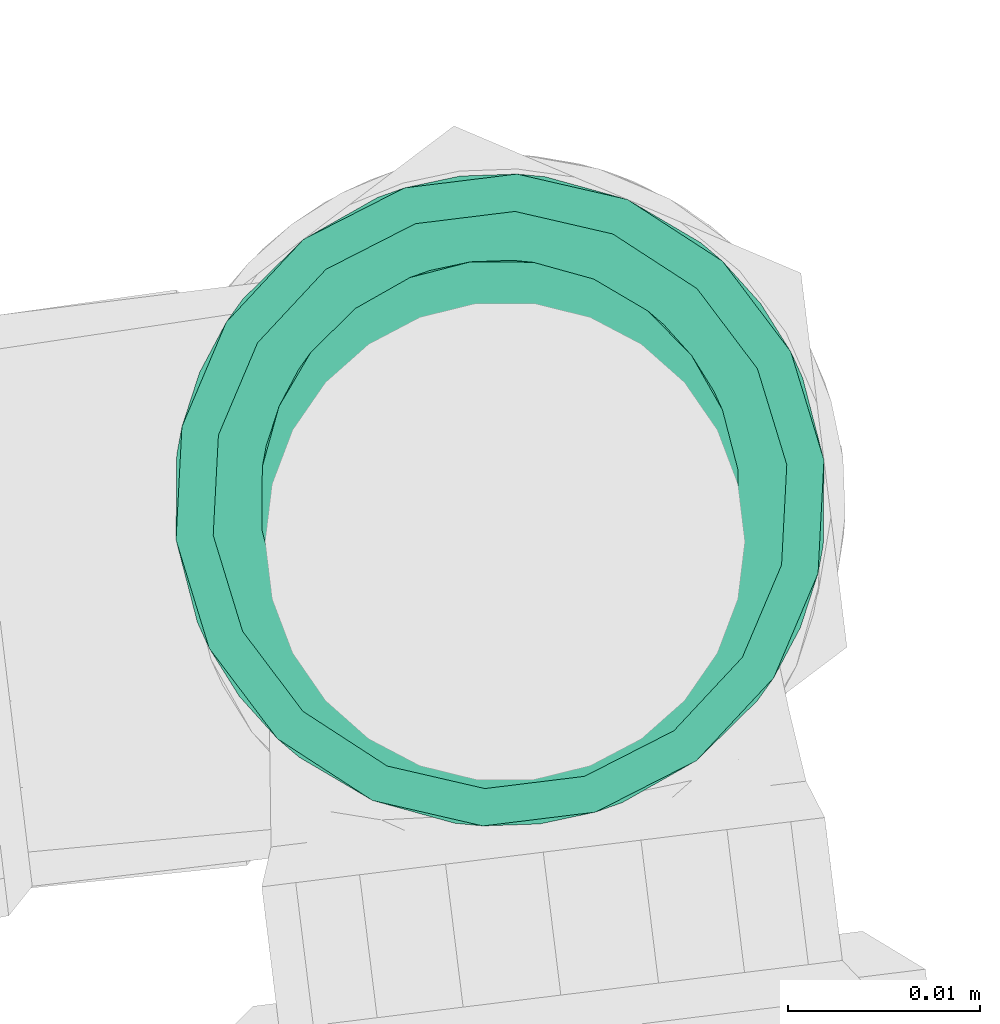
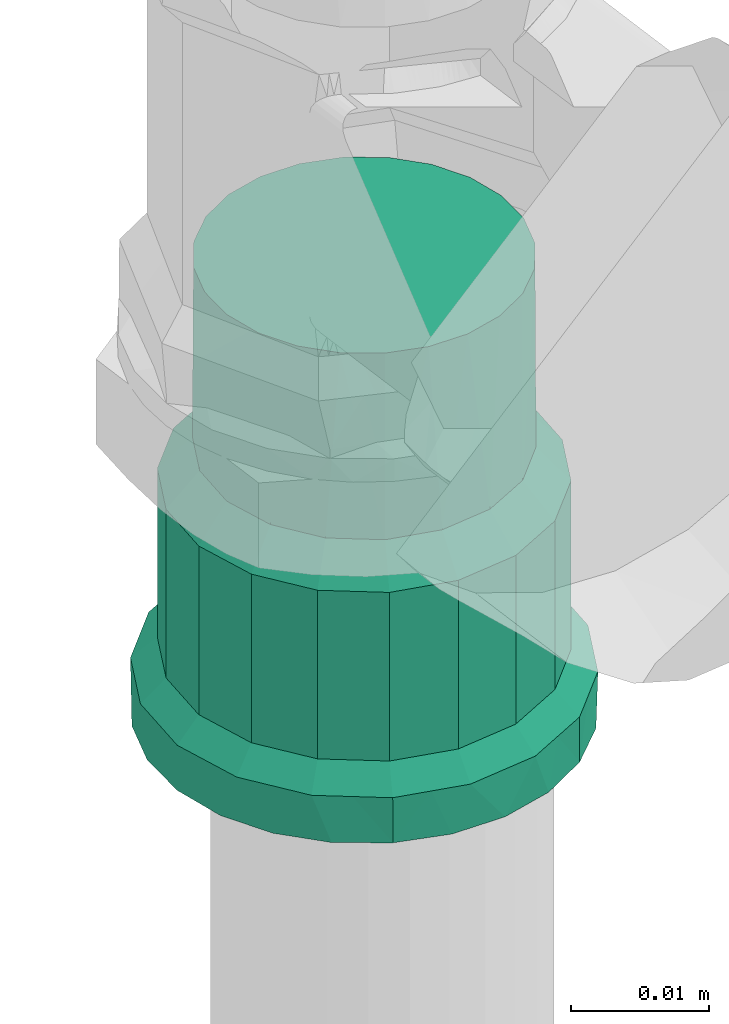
# One storey, part 76 of 97: 1 flow fitting.
"""IFC2X3 building model written with IfcOpenShell, lengths in centimetres."""

from ifc_helpers import new_model, entity, si_unit, converted_unit, derived_unit, direction, frame, origin, place, context, subcontext, project, spatial, faceted_brep, source, transform, mapped, material, type_object, type_shapes, element, save


model = new_model("IFC2X3")

# Units and contexts
model_context = context("Model", 3, precision=0.001, world=origin(), true_north=direction((6.12303176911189e-17, 1.0)))
body_context = subcontext(model_context, "Body", "Model", "MODEL_VIEW")
ifc_project = project(units=[si_unit("LENGTHUNIT", "METRE", prefix="CENTI"), si_unit("AREAUNIT", "SQUARE_METRE"), si_unit("VOLUMEUNIT", "CUBIC_METRE"), converted_unit("PLANEANGLEUNIT", "DEGREE", entity("IfcRatioMeasure", 0.0174532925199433), si_unit("PLANEANGLEUNIT", "RADIAN"), dimensions=[0, 0, 0, 0, 0, 0, 0]), si_unit("MASSUNIT", "GRAM", prefix="KILO"), derived_unit("MASSDENSITYUNIT", [(si_unit("MASSUNIT", "GRAM", prefix="KILO"), 1), (si_unit("LENGTHUNIT", "METRE"), -3)]), derived_unit("MOMENTOFINERTIAUNIT", [(si_unit("LENGTHUNIT", "METRE"), 4)]), si_unit("TIMEUNIT", "SECOND"), si_unit("FREQUENCYUNIT", "HERTZ"), si_unit("THERMODYNAMICTEMPERATUREUNIT", "DEGREE_CELSIUS"), derived_unit("THERMALTRANSMITTANCEUNIT", [(si_unit("MASSUNIT", "GRAM", prefix="KILO"), 1), (si_unit("THERMODYNAMICTEMPERATUREUNIT", "KELVIN"), -1), (si_unit("TIMEUNIT", "SECOND"), -3)]), derived_unit("VOLUMETRICFLOWRATEUNIT", [(si_unit("LENGTHUNIT", "METRE"), 3), (si_unit("TIMEUNIT", "SECOND"), -1)]), si_unit("ELECTRICCURRENTUNIT", "AMPERE"), si_unit("ELECTRICVOLTAGEUNIT", "VOLT"), si_unit("POWERUNIT", "WATT"), si_unit("FORCEUNIT", "NEWTON", prefix="KILO"), si_unit("ILLUMINANCEUNIT", "LUX"), si_unit("LUMINOUSFLUXUNIT", "LUMEN"), si_unit("LUMINOUSINTENSITYUNIT", "CANDELA"), derived_unit("USERDEFINED", [(si_unit("MASSUNIT", "GRAM", prefix="KILO"), -1), (si_unit("LENGTHUNIT", "METRE"), -2), (si_unit("TIMEUNIT", "SECOND"), 3), (si_unit("LUMINOUSFLUXUNIT", "LUMEN"), 1)]), derived_unit("LINEARVELOCITYUNIT", [(si_unit("LENGTHUNIT", "METRE"), 1), (si_unit("TIMEUNIT", "SECOND"), -1)]), si_unit("PRESSUREUNIT", "PASCAL"), derived_unit("USERDEFINED", [(si_unit("LENGTHUNIT", "METRE"), -2), (si_unit("MASSUNIT", "GRAM", prefix="KILO"), 1), (si_unit("TIMEUNIT", "SECOND"), -2)]), derived_unit("LINEARFORCEUNIT", [(si_unit("MASSUNIT", "GRAM", prefix="KILO"), 1), (si_unit("LENGTHUNIT", "METRE"), 1), (si_unit("TIMEUNIT", "SECOND"), -2), (si_unit("LENGTHUNIT", "METRE"), -1)]), derived_unit("PLANARFORCEUNIT", [(si_unit("MASSUNIT", "GRAM", prefix="KILO"), 1), (si_unit("LENGTHUNIT", "METRE"), 1), (si_unit("TIMEUNIT", "SECOND"), -2), (si_unit("LENGTHUNIT", "METRE"), -2)])], contexts=[model_context])

# Site, building, storey
site_placement = place(None, origin())
site = spatial("IfcSite", under=ifc_project, at=site_placement, Name="Default", CompositionType="ELEMENT")
building_placement = place(site_placement, origin())
building = spatial("IfcBuilding", under=site, at=building_placement, Name="HIDROSSANITÁRIO", CompositionType="ELEMENT")
storey_placement = place(building_placement, frame((0.0, 0.0, -260.0)))
storey = spatial("IfcBuildingStorey", under=building, at=storey_placement, Name="TÉRREO-HID", CompositionType="ELEMENT", Elevation=-260.0)

# Flow fitting
ifc_material = material(Name="PVC Marrom")
pipe_fitting_type = type_object("IfcPipeFittingType", Name="PVC Marrom Soldável_Adaptador Curto com Bolsa e Rosca Aninhado:Adaptador", PredefinedType="NOTDEFINED", material=ifc_material)
shared_shape = source(origin(), body_context, "Body", "Brep", [
    faceted_brep([(0.0, 0.624999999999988, -1.08253175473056), (0.0, 1.20208152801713, -1.20208152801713), (0.0, 0.850000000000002, -1.47224318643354), (0.0, 0.883883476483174, -0.883883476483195), (0.0, 0.323523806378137, -1.20740728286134), (0.0, 1.47224318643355, -0.849999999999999), (0.0, 1.08253175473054, -0.625000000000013), (0.0, 1.20740728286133, -0.323523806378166), (0.0, 1.64207390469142, -0.439992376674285), (0.0, 1.25, 0.0), (0.0, 1.7, 0.0), (0.0, 1.20740728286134, 0.323523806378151), (0.0, 1.64207390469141, 0.439992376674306), (0.0, 1.08253175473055, 0.625), (0.0, 1.47224318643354, 0.850000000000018), (0.0, 0.883883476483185, 0.883883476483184), (0.0, 1.20208152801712, 1.20208152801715), (0.0, 0.625000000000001, 1.08253175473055), (0.0, 0.849999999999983, 1.47224318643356), (0.0, 0.323523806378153, 1.20740728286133), (0.0, 0.439992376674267, 1.64207390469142), (0.0, 0.0, 1.25), (0.0, 0.0, 1.7), (0.0, -0.323523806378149, 1.20740728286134), (0.0, -0.439992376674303, 1.64207390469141), (0.0, -0.624999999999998, 1.08253175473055), (0.0, -0.850000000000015, 1.47224318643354), (0.0, -0.883883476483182, 0.883883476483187), (0.0, -1.20208152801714, 1.20208152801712), (0.0, -1.08253175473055, 0.625000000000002), (0.0, -1.47224318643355, 0.849999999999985), (0.0, -1.64207390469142, 0.439992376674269), (0.0, -1.20740728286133, 0.323523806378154), (0.0, -1.7, 0.0), (0.0, -1.25, 0.0), (0.0, -1.64207390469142, -0.43999237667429), (0.0, -1.20740728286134, -0.323523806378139), (0.0, -1.47224318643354, -0.850000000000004), (0.0, -1.08253175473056, -0.624999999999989), (0.0, -1.20208152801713, -1.20208152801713), (0.0, -0.883883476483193, -0.883883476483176), (0.0, -0.849999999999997, -1.47224318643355), (0.0, -0.625000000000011, -1.08253175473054), (0.0, -0.439992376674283, -1.64207390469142), (0.0, -0.323523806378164, -1.20740728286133), (0.0, 0.0, -1.7), (0.0, 0.0, -1.25), (0.0, 0.439992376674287, -1.64207390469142), (0.399999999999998, -1.64873062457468, 0.290739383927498), (0.399999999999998, -1.59746124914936, 0.581478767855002), (0.399999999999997, -1.30221463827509, 1.09281152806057), (0.399999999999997, -1.07604576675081, 1.28256289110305), (0.399999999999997, -1.44983794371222, 0.837145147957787), (0.399999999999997, -0.295015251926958, 1.67420608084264), (0.399999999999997, -0.57244607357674, 1.57326016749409), (0.399999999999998, -1.7, 0.0), (0.399999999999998, -1.659968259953, 0.227012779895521), (0.399999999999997, -0.849876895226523, 1.47231425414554), (0.399999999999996, 0.572840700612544, 1.57311652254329), (0.399999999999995, 0.850246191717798, 1.47210102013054), (0.399999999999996, 0.295435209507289, 1.67413202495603), (0.399999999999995, 1.07636745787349, 1.28229292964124), (0.399999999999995, 1.30248872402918, 1.09248483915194), (0.399999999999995, 1.5976070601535, 0.581078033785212), (0.399999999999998, 1.7, 0.0), (0.399999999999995, 1.45004789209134, 0.836781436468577), (0.399999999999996, 0.000209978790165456, 1.67416905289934), (0.400000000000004, 1.59760706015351, -0.581078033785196), (0.400000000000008, 1.30248872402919, -1.09248483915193), (0.400000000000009, 1.0763674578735, -1.28229292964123), (0.400000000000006, 1.45004789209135, -0.836781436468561), (0.400000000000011, 0.295435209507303, -1.67413202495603), (0.40000000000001, 0.572840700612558, -1.57311652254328), (0.40000000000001, 0.850246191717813, -1.47210102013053), (0.4, -1.64873062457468, -0.290739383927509), (0.400000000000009, -0.572446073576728, -1.57326016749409), (0.400000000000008, -0.849876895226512, -1.47231425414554), (0.40000000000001, -0.295015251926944, -1.67420608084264), (0.400000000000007, -1.0760457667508, -1.28256289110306), (0.400000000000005, -1.30221463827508, -1.09281152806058), (0.400000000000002, -1.59746124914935, -0.581478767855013), (0.400000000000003, -1.44983794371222, -0.837145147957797), (0.40000000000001, 0.000209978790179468, -1.67416905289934), (0.399999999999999, -1.65996825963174, -0.227012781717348), (2.085, -1.41422304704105, 0.514779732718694), (0.590000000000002, -1.41422304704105, 0.514779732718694), (0.590000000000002, -1.45961152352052, 0.257389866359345), (0.590000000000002, -1.505, 0.0), (2.085, -1.505, 0.0), (2.085, -1.45961152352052, 0.257389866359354), (2.085, -1.45359735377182, 0.291495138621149), (2.08499999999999, -0.752391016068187, 1.30343114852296), (0.590000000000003, -0.752391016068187, 1.30343114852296), (0.590000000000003, -0.952616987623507, 1.13544538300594), (0.590000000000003, -1.15284295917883, 0.967459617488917), (2.08499999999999, -1.15284295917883, 0.967459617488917), (2.08499999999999, -0.952616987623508, 1.13544538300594), (0.590000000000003, -1.28353300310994, 0.741119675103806), (2.085, -1.28353300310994, 0.741119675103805), (0.590000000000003, -0.506783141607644, 1.39279797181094), (2.08499999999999, -0.506783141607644, 1.39279797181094), (2.08499999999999, -0.261175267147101, 1.48216479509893), (0.590000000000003, -0.261175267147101, 1.48216479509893), (0.590000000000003, 0.000185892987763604, 1.48213201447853), (2.08499999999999, 0.000185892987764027, 1.48213201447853), (2.08499999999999, 0.261547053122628, 1.48209923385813), (0.590000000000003, 0.261547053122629, 1.48209923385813), (2.08499999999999, 0.75271795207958, 1.3032423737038), (0.590000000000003, 0.752717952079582, 1.3032423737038), (0.590000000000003, 0.507132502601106, 1.39267080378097), (2.08499999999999, 0.507132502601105, 1.39267080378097), (2.08499999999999, 1.15308560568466, 0.967170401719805), (0.590000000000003, 1.15308560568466, 0.967170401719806), (0.590000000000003, 0.952901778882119, 1.1352063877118), (2.08499999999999, 0.952901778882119, 1.1352063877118), (2.085, 1.4143521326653, 0.514424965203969), (0.590000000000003, 1.4143521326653, 0.514424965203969), (0.590000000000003, 1.28371886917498, 0.740797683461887), (2.085, 1.28371886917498, 0.740797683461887), (2.085, 1.505, 0.0), (0.590000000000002, 1.505, 0.0), (2.08500000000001, 1.41435213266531, -0.514424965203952), (0.590000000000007, 1.41435213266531, -0.514424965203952), (0.590000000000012, 0.752717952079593, -1.3032423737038), (0.590000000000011, 0.95290177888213, -1.13520638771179), (0.59000000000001, 1.15308560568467, -0.967170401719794), (2.08500000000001, 1.15308560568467, -0.967170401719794), (2.08500000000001, 0.95290177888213, -1.13520638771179), (2.08500000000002, 0.752717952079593, -1.3032423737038), (2.08500000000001, -1.41422304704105, -0.514779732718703), (0.590000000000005, -1.41422304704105, -0.514779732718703), (0.590000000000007, -1.28353300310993, -0.741119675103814), (0.590000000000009, -1.15284295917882, -0.967459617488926), (2.08500000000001, -1.15284295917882, -0.967459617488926), (2.08500000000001, -1.28353300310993, -0.741119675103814), (2.08500000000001, -0.752391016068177, -1.30343114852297), (0.590000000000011, -0.752391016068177, -1.30343114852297), (0.590000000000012, -0.506783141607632, -1.39279797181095), (0.590000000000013, -0.261175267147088, -1.48216479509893), (2.08500000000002, -0.261175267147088, -1.48216479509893), (2.08500000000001, -0.506783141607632, -1.39279797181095), (0.590000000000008, 1.28371886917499, -0.740797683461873), (2.08500000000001, 1.28371886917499, -0.740797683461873), (0.590000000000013, 0.507132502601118, -1.39267080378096), (2.08500000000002, 0.507132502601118, -1.39267080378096), (2.08500000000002, 0.261547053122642, -1.48209923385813), (0.590000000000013, 0.261547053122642, -1.48209923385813), (2.085, -1.45359734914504, -0.291495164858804), (2.085, -1.46677519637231, -0.216765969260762), (0.590000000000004, -1.45961152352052, -0.257389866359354), (0.59000000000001, -0.952616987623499, -1.13544538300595), (2.08500000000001, -0.952616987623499, -1.13544538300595), (0.590000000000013, 0.000185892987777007, -1.48213201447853), (2.08500000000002, 0.000185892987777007, -1.48213201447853), (4.03, 0.323523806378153, -1.20740728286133), (4.03, 0.625000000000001, -1.08253175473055), (4.03, 0.883883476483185, -0.883883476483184), (4.03, 1.08253175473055, -0.624999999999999), (4.03, 1.20740728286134, -0.323523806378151), (4.03, 1.25, 0.0), (4.03, 1.20740728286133, 0.323523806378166), (4.03, 1.08253175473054, 0.625000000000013), (4.03, 0.883883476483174, 0.883883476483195), (4.03, 0.624999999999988, 1.08253175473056), (4.03, 0.323523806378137, 1.20740728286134), (4.03, 0.0, 1.25), (4.03, -0.323523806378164, 1.20740728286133), (4.03, -0.625000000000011, 1.08253175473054), (4.03, -0.883883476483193, 0.883883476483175), (4.03, -1.08253175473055, 0.624999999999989), (4.03, -1.20740728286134, 0.323523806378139), (4.03, -1.25, 0.0), (4.03, -1.20740728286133, -0.323523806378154), (4.03, -1.08253175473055, -0.625000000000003), (4.03, -0.883883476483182, -0.883883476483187), (4.03, -0.624999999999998, -1.08253175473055), (4.03, -0.323523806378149, -1.20740728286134), (4.03, 0.0, -1.25), (2.375, -1.25, 0.0), (2.37499999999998, -0.957510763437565, 0.803537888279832), (2.37499999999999, -1.17460385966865, 0.427557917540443), (2.37499999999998, -0.624909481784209, 1.08258401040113), (2.37499999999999, -1.06605731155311, 0.615547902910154), (2.375, -1.21825182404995, 0.180038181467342), (2.37499999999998, -0.216922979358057, 1.23103388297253), (2.37499999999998, -0.420916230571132, 1.15680894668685), (2.37499999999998, -0.791210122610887, 0.943060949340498), (2.37499999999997, 0.217231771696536, 1.23097943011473), (2.37499999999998, 0.625181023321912, 1.08242722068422), (2.37499999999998, 0.957712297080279, 0.803297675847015), (2.37499999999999, 1.17471107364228, 0.427263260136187), (2.37499999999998, 0.791446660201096, 0.94286244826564), (2.37499999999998, 0.421206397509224, 1.1567033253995), (2.375, 1.25, 0.0), (2.37499999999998, 1.06621168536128, 0.615280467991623), (2.37499999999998, 0.000154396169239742, 1.23100665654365), (2.37500000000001, 0.957712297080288, -0.803297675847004), (2.375, 1.17471107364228, -0.427263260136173), (2.37500000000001, 0.625181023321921, -1.08242722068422), (2.37500000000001, 1.06621168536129, -0.615280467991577), (2.37500000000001, 0.217231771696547, -1.23097943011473), (2.37500000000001, 0.421206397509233, -1.15670332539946), (2.37500000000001, 0.791446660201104, -0.942862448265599), (2.37500000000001, -0.216922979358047, -1.23103388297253), (2.37500000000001, -0.6249094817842, -1.08258401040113), (2.375, -0.957510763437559, -0.803537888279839), (2.375, -1.17460385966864, -0.427557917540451), (2.37500000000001, -0.79121012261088, -0.943060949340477), (2.37500000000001, -0.420916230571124, -1.15680894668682), (2.375, -1.21230192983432, -0.213778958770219), (2.375, -1.0660573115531, -0.615547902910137), (2.37500000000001, 0.00015439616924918, -1.23100665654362), (0.590000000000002, -1.25, 0.0), (2.085, -1.25, 0.0), (2.085, -1.20740728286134, -0.323523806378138), (0.590000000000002, -1.20740728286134, -0.323523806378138), (0.399999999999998, -1.20740728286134, -0.323523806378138), (0.399999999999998, -1.25, 0.0), (2.085, -1.08253175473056, -0.624999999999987), (0.590000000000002, -1.08253175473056, -0.624999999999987), (0.399999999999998, -1.08253175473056, -0.624999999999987), (0.590000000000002, -0.625000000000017, -1.08253175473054), (0.399999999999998, -0.625000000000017, -1.08253175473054), (0.399999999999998, -0.883883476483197, -0.883883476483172), (0.590000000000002, -0.883883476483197, -0.883883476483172), (2.085, -0.883883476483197, -0.883883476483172), (2.085, -0.625000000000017, -1.08253175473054), (0.590000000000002, -0.32352380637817, -1.20740728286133), (0.399999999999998, -0.32352380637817, -1.20740728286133), (2.085, -0.32352380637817, -1.20740728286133), (2.085, 0.0, -1.25), (0.590000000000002, 0.0, -1.25), (0.399999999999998, 0.0, -1.25), (2.085, 0.323523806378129, -1.20740728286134), (0.590000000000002, 0.323523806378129, -1.20740728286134), (0.399999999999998, 0.323523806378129, -1.20740728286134), (2.085, 0.624999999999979, -1.08253175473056), (0.590000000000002, 0.624999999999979, -1.08253175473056), (0.399999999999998, 0.624999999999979, -1.08253175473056), (0.590000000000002, 1.08253175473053, -0.625000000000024), (0.399999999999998, 1.08253175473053, -0.625000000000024), (0.399999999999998, 0.883883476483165, -0.883883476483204), (0.590000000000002, 0.883883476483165, -0.883883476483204), (2.085, 0.883883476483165, -0.883883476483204), (2.085, 1.08253175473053, -0.625000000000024), (0.590000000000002, 1.20740728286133, -0.323523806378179), (0.399999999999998, 1.20740728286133, -0.323523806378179), (2.085, 1.20740728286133, -0.323523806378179), (2.085, 1.25, 0.0), (0.590000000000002, 1.25, 0.0), (0.399999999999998, 1.25, 0.0), (2.085, 1.20740728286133, 0.323523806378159), (0.590000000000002, 1.20740728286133, 0.323523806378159), (0.399999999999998, 1.20740728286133, 0.323523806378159), (2.085, 1.08253175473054, 0.625000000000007), (0.590000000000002, 1.08253175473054, 0.625000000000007), (0.399999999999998, 1.08253175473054, 0.625000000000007), (0.590000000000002, 0.624999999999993, 1.08253175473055), (0.399999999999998, 0.624999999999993, 1.08253175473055), (0.399999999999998, 0.883883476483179, 0.88388347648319), (0.590000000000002, 0.883883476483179, 0.88388347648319), (2.085, 0.883883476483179, 0.88388347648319), (2.085, 0.624999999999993, 1.08253175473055), (0.590000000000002, 0.323523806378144, 1.20740728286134), (0.399999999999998, 0.323523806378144, 1.20740728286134), (2.085, 0.323523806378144, 1.20740728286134), (2.085, 0.0, 1.25), (0.590000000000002, 0.0, 1.25), (0.399999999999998, 0.0, 1.25), (2.085, -0.323523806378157, 1.20740728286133), (0.590000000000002, -0.323523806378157, 1.20740728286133), (0.399999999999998, -0.323523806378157, 1.20740728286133), (2.085, -0.625000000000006, 1.08253175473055), (0.590000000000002, -0.625000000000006, 1.08253175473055), (0.399999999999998, -0.625000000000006, 1.08253175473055), (0.590000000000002, -1.08253175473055, 0.624999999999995), (0.399999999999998, -1.08253175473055, 0.624999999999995), (0.399999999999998, -0.883883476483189, 0.88388347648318), (0.590000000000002, -0.883883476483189, 0.88388347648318), (2.085, -0.883883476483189, 0.88388347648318), (2.085, -1.08253175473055, 0.624999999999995), (0.590000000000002, -1.20740728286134, 0.323523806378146), (0.399999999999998, -1.20740728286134, 0.323523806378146), (2.085, -1.20740728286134, 0.323523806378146)], [[[0, 1, 2]], [[3, 1, 0]], [[4, 0, 2]], [[1, 3, 5]], [[5, 3, 6]], [[5, 6, 7]], [[8, 5, 7]], [[9, 8, 7]], [[10, 8, 9]], [[10, 9, 11]], [[12, 10, 11]], [[12, 11, 13]], [[14, 12, 13]], [[14, 13, 15]], [[15, 16, 14]], [[15, 17, 16]], [[18, 16, 17]], [[19, 18, 17]], [[18, 19, 20]], [[21, 20, 19]], [[22, 20, 21]], [[21, 23, 22]], [[24, 22, 23]], [[25, 24, 23]], [[24, 25, 26]], [[25, 27, 26]], [[27, 28, 26]], [[28, 27, 29]], [[28, 29, 30]], [[30, 29, 31]], [[31, 29, 32]], [[33, 31, 32]], [[32, 34, 33]], [[33, 34, 35]], [[34, 36, 35]], [[37, 35, 36]], [[37, 36, 38]], [[39, 37, 38]], [[40, 39, 38]], [[40, 41, 39]], [[42, 41, 40]], [[43, 41, 42]], [[42, 44, 43]], [[43, 44, 45]], [[46, 45, 44]], [[46, 4, 47]], [[45, 46, 47]], [[2, 47, 4]], [[48, 49, 31]], [[28, 50, 51]], [[50, 30, 49, 52]], [[53, 24, 54]], [[30, 31, 49]], [[33, 55, 56, 48]], [[51, 57, 26]], [[51, 26, 28]], [[30, 50, 28]], [[58, 59, 18]], [[58, 18, 20]], [[26, 57, 54]], [[26, 54, 24]], [[22, 24, 53]], [[33, 48, 31]], [[20, 60, 58]], [[16, 61, 62]], [[12, 63, 64]], [[63, 14, 62, 65]], [[12, 64, 10]], [[18, 61, 16]], [[22, 53, 66, 60]], [[22, 60, 20]], [[14, 16, 62]], [[59, 61, 18]], [[14, 63, 12]], [[8, 64, 67]], [[1, 68, 69]], [[68, 5, 67, 70]], [[71, 47, 72]], [[5, 8, 67]], [[8, 10, 64]], [[2, 72, 47]], [[69, 73, 2]], [[5, 68, 1]], [[74, 33, 35]], [[75, 76, 41]], [[2, 73, 72]], [[75, 41, 43]], [[45, 47, 71]], [[69, 2, 1]], [[43, 77, 75]], [[39, 78, 79]], [[35, 80, 74]], [[80, 37, 79, 81]], [[37, 80, 35]], [[41, 78, 39]], [[45, 71, 82, 77]], [[45, 77, 43]], [[37, 39, 79]], [[76, 78, 41]], [[33, 74, 83, 55]], [[84, 85, 86, 87, 88, 89, 90]], [[91, 92, 93, 94, 95, 96]], [[97, 85, 84, 98, 95, 94]], [[99, 92, 91, 100, 101, 102]], [[103, 102, 101, 104, 105, 106]], [[107, 108, 109, 106, 105, 110]], [[111, 112, 113, 108, 107, 114]], [[115, 116, 117, 112, 111, 118]], [[115, 119, 120, 116]], [[120, 119, 121, 122]], [[123, 124, 125, 126, 127, 128]], [[129, 130, 131, 132, 133, 134]], [[135, 136, 137, 138, 139, 140]], [[141, 122, 121, 142, 126, 125]], [[143, 123, 128, 144, 145, 146]], [[147, 148, 88, 87, 149, 130, 129]], [[133, 132, 150, 136, 135, 151]], [[152, 146, 145, 153, 139, 138]], [[154, 155, 156, 157, 158, 159, 160, 161, 162, 163, 164, 165, 166, 167, 168, 169, 170, 171, 172, 173, 174, 175, 176, 177]], [[178, 171, 170]], [[179, 169, 168]], [[170, 169, 180]], [[168, 167, 181]], [[169, 179, 182, 180]], [[170, 180, 183, 178]], [[166, 184, 185, 181]], [[168, 181, 186, 179]], [[184, 166, 165]], [[181, 167, 166]], [[164, 187, 165]], [[163, 188, 164]], [[189, 162, 161]], [[163, 162, 188]], [[190, 161, 160]], [[162, 189, 191, 188]], [[164, 188, 192, 187]], [[160, 193, 190]], [[161, 190, 194, 189]], [[160, 159, 193]], [[165, 187, 195, 184]], [[193, 159, 158]], [[196, 157, 156]], [[158, 157, 197]], [[156, 155, 198]], [[157, 196, 199, 197]], [[197, 193, 158]], [[154, 200, 201, 198]], [[156, 198, 202, 196]], [[200, 154, 177]], [[198, 155, 154]], [[176, 203, 177]], [[175, 204, 176]], [[205, 174, 173]], [[175, 174, 204]], [[206, 173, 172]], [[174, 205, 207, 204]], [[176, 204, 208, 203]], [[172, 178, 209, 206]], [[173, 206, 210, 205]], [[172, 171, 178]], [[177, 203, 211, 200]], [[212, 213, 214, 215, 216, 36, 34, 217]], [[215, 214, 218, 219, 220, 38, 36, 216]], [[221, 222, 42, 40, 223, 224, 225, 226]], [[225, 224, 223, 40, 38, 220, 219, 218]], [[227, 228, 44, 42, 222, 221, 226, 229]], [[227, 229, 230, 231, 232, 46, 44, 228]], [[231, 230, 233, 234, 235, 4, 46, 232]], [[234, 233, 236, 237, 238, 0, 4, 235]], [[239, 240, 6, 3, 241, 242, 243, 244]], [[243, 242, 241, 3, 0, 238, 237, 236]], [[245, 246, 7, 6, 240, 239, 244, 247]], [[245, 247, 248, 249, 250, 9, 7, 246]], [[249, 248, 251, 252, 253, 11, 9, 250]], [[252, 251, 254, 255, 256, 13, 11, 253]], [[257, 258, 17, 15, 259, 260, 261, 262]], [[261, 260, 259, 15, 13, 256, 255, 254]], [[263, 264, 19, 17, 258, 257, 262, 265]], [[263, 265, 266, 267, 268, 21, 19, 264]], [[267, 266, 269, 270, 271, 23, 21, 268]], [[270, 269, 272, 273, 274, 25, 23, 271]], [[275, 276, 29, 27, 277, 278, 279, 280]], [[279, 278, 277, 27, 25, 274, 273, 272]], [[281, 282, 32, 29, 276, 275, 280, 283]], [[281, 283, 213, 212, 217, 34, 32, 282]], [[120, 122, 67, 64]], [[73, 123, 143, 146, 71, 72]], [[123, 73, 69, 68, 125, 124]], [[70, 67, 122, 141, 125, 68]], [[77, 138, 137, 136, 76, 75]], [[130, 80, 81, 79, 132, 131]], [[149, 87, 55, 83, 74, 80, 130]], [[82, 71, 146, 152, 138, 77]], [[78, 76, 136, 150, 132, 79]], [[49, 48, 56, 55, 87, 86, 85]], [[52, 49, 85, 97, 94, 50]], [[51, 50, 94, 93, 92, 57]], [[92, 99, 102, 53, 54, 57]], [[103, 106, 60, 66, 53, 102]], [[109, 108, 59, 58, 60, 106]], [[116, 120, 64, 63]], [[112, 117, 116, 63, 65, 62]], [[108, 113, 112, 62, 61, 59]], [[233, 230, 229, 226, 225, 218, 214, 213, 283, 280, 279, 272, 269, 266, 265, 262, 261, 254, 251, 248, 247, 244, 243, 236]], [[180, 84, 90, 89, 88, 178, 183]], [[184, 101, 100, 91, 181, 185]], [[96, 95, 179, 186, 181, 91]], [[98, 84, 180, 182, 179, 95]], [[101, 184, 195, 187, 105, 104]], [[190, 115, 118, 111, 189, 194]], [[105, 187, 192, 188, 107, 110]], [[190, 193, 119, 115]], [[114, 107, 188, 191, 189, 111]], [[193, 197, 121, 119]], [[128, 198, 201, 200, 145, 144]], [[198, 128, 127, 126, 196, 202]], [[142, 121, 197, 199, 196, 126]], [[139, 203, 208, 204, 135, 140]], [[206, 129, 134, 133, 205, 210]], [[209, 178, 88, 148, 147, 129, 206]], [[153, 145, 200, 211, 203, 139]], [[151, 135, 204, 207, 205, 133]]]),
])
type_shapes(pipe_fitting_type, [shared_shape])
flow_fitting_placement = place(storey_placement, frame((-1478.54642071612, 2914.31689094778, 174.525), z_axis=(0.122152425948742, -0.992511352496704, 0.0), x_axis=(0.0, 0.0, 1.0)))
element("IfcFlowFitting", 1, at=flow_fitting_placement, inside=storey, type_object=pipe_fitting_type, material=ifc_material, Name="PVC Marrom Soldável_Adaptador Curto com Bolsa e Rosca Aninhado:Adaptador", ObjectType="PVC Marrom Soldável_Adaptador Curto com Bolsa e Rosca Aninhado:Adaptador", context=body_context, shape_type="MappedRepresentation", body=[
    mapped(shared_shape, transform((0.0, 0.0, 0.0), scale=1.0)),
])

save(model, "model.ifc")
